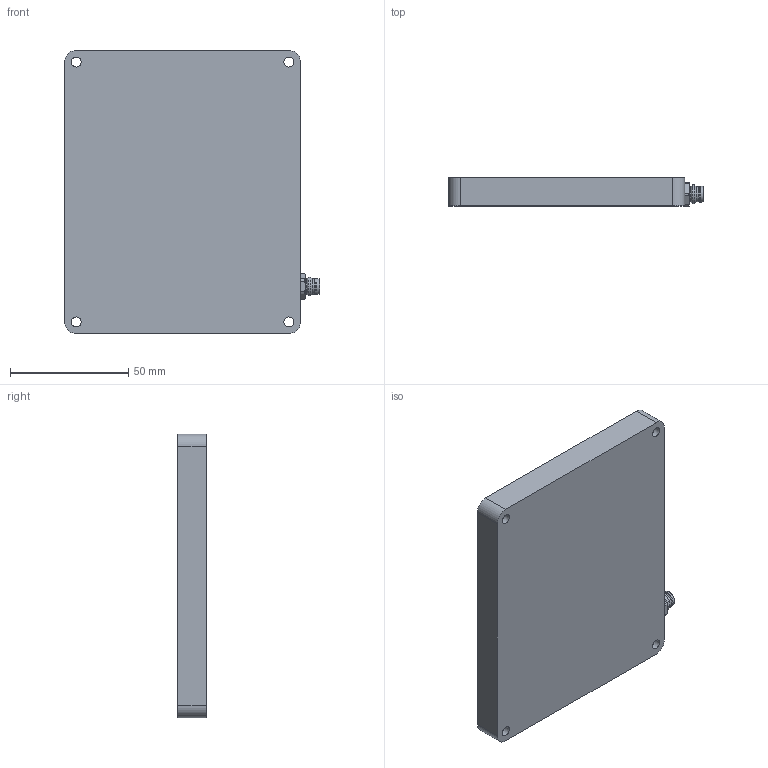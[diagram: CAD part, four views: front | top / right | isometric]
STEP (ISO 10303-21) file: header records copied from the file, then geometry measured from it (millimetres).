
FILE_DESCRIPTION (( 'STEP AP214' ), '1' );
FILE_NAME ('01807.00 Basisbaugruppe DBL-0510 step17082020.STEP', '2020-08-17T07:06:57', ( '' ), ( '' ), 'SwSTEP 2.0', 'SolidWorks 2013', '' );
FILE_SCHEMA (( 'AUTOMOTIVE_DESIGN' ));
Length unit declared in the file: millimetre
Products named in the file (1): 01807.00 Basisbaugruppe DBL-0510 step17082020
Bounding box: 108 x 12 x 120 mm (x, y, z)
Surface area: 31773.7 mm2 (no closed solid volume)
Topology: 0 solids, 7 shells, 90 faces, 254 edges, 178 vertices
Faces by surface type: cylinder 43, plane 40, cone 5, bspline 2
Full cylindrical faces by diameter (mm): 1 x4, 4.2 x4, 5.8 x1, 6.5 x2, 6.9 x1, 8 x5
Entity records: 4449 total; most frequent: CARTESIAN_POINT 1231, DIRECTION 481, ORIENTED_EDGE 366, EDGE_CURVE 221, AXIS2_PLACEMENT_3D 186, VERTEX_POINT 169, EDGE_LOOP 131, LINE 109
